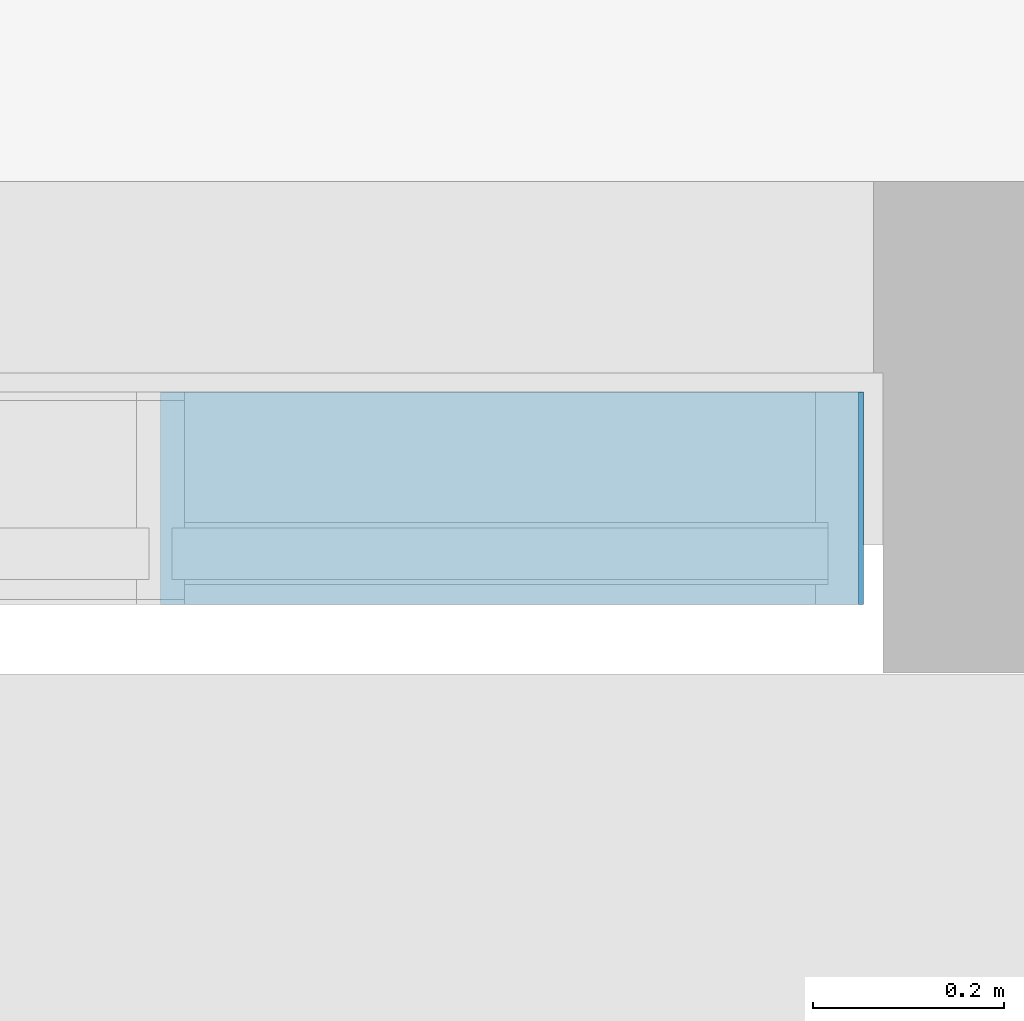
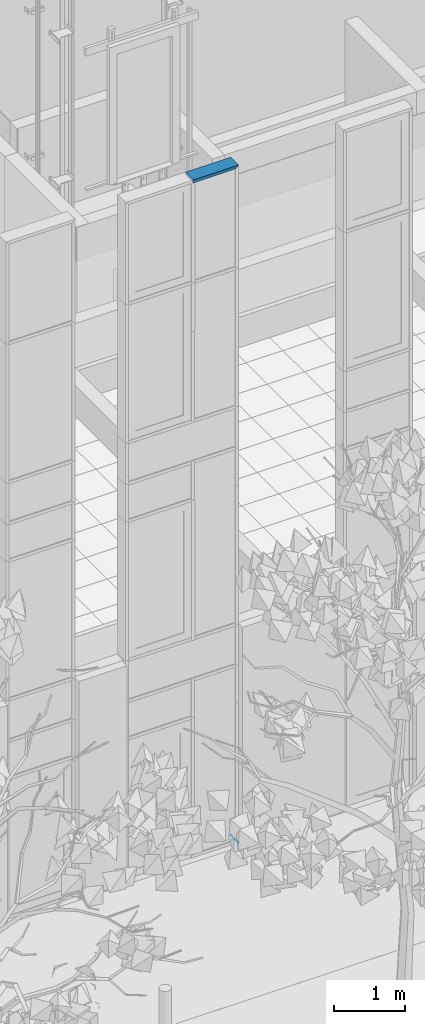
# One storey, part 31 of 246: 2 members, 1 element without a shape of its own.
"""IFC2X3 building model written with IfcOpenShell, lengths in millimetres."""

from ifc_helpers import new_model, entity, si_unit, converted_unit, derived_unit, money_unit, direction, frame, origin_with_axes, place, context, subcontext, project, spatial, faceted_brep, source, transform, mapped, material, type_object, element, aggregate, save


model = new_model("IFC2X3")

# Units and contexts
model_context = context("Model", 3, precision=0.01, world=origin_with_axes(), true_north=direction((0.0, 1.0)))
body_context = subcontext(model_context, "Body", "Model", "MODEL_VIEW")
ifc_project = project(units=[si_unit("LENGTHUNIT", "METRE", prefix="MILLI"), si_unit("AREAUNIT", "SQUARE_METRE"), si_unit("VOLUMEUNIT", "CUBIC_METRE"), converted_unit("PLANEANGLEUNIT", "DEGREE", entity("IfcPlaneAngleMeasure", 0.0174532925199), si_unit("PLANEANGLEUNIT", "RADIAN"), dimensions=[0, 0, 0, 0, 0, 0, 0]), si_unit("SOLIDANGLEUNIT", "STERADIAN"), money_unit("EUR"), converted_unit("TIMEUNIT", "Year", entity("IfcTimeMeasure", 31556926.0), si_unit("TIMEUNIT", "SECOND"), dimensions=[0, 0, 1, 0, 0, 0, 0]), si_unit("MASSUNIT", "GRAM", prefix="KILO"), si_unit("THERMODYNAMICTEMPERATUREUNIT", "DEGREE_CELSIUS"), si_unit("LUMINOUSINTENSITYUNIT", "LUMEN"), si_unit("ENERGYUNIT", "JOULE", prefix="MEGA"), derived_unit("THERMALCONDUCTANCEUNIT", [(si_unit("POWERUNIT", "WATT"), 1), (si_unit("LENGTHUNIT", "METRE"), -1), (si_unit("THERMODYNAMICTEMPERATUREUNIT", "KELVIN"), -1)]), derived_unit("SPECIFICHEATCAPACITYUNIT", [(si_unit("ENERGYUNIT", "JOULE"), 1), (si_unit("MASSUNIT", "GRAM", prefix="KILO"), -1), (si_unit("THERMODYNAMICTEMPERATUREUNIT", "KELVIN"), -1)]), derived_unit("MASSDENSITYUNIT", [(si_unit("MASSUNIT", "GRAM", prefix="KILO"), 1), (si_unit("VOLUMEUNIT", "CUBIC_METRE"), -1)])], contexts=[model_context])

# Site, building, storey
site_placement = place(None, origin_with_axes())
site = spatial("IfcSite", under=ifc_project, at=site_placement, Name="L.Koidula tn 11b", CompositionType="ELEMENT")
building_placement = place(site_placement, origin_with_axes())
building = spatial("IfcBuilding", under=site, at=building_placement, Name="Rakvere Riigigümnaasium", CompositionType="ELEMENT")
storey_placement = place(building_placement, origin_with_axes())
storey = spatial("IfcBuildingStorey", under=building, at=storey_placement, Name="1.korrus 0,00", CompositionType="ELEMENT", Elevation=0.0)

# Curtain wall, members
curtain_wall_type = type_object("IfcCurtainWallType", Name="Curtain Wall Type", PredefinedType="NOTDEFINED")
curtain_wall_placement = place(storey_placement, frame((42948.5002114, 5111.45334637, -8.09717250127e-06), z_axis=(0.0, 0.0, 1.0), x_axis=(1.0, 0.0, 0.0)))
curtain_wall = element("IfcCurtainWall", 1, at=curtain_wall_placement, inside=storey, type_object=curtain_wall_type, Name="KLF-05-2A")
ifc_material = material(Name="Alumiiniumprofiil (RAL 7021)")
member_type = type_object("IfcMemberType", Name="Boundary Frame 50 x 222", PredefinedType="MULLION")
shared_shape_1 = source(origin_with_axes(), body_context, "Body", "Brep", [
    faceted_brep([(5.00003729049, 53.0, 0.0), (0.0, 53.0, 0.0), (0.0, 53.0, 5.00003729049), (5.00003729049, -169.0, 0.0), (0.0, -169.0, 0.0), (0.0, -169.0, 5.00003729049)], [[[0, 1, 2]], [[3, 4, 1, 0]], [[1, 4, 5, 2]], [[0, 2, 5, 3]], [[4, 3, 5]]]),
])
member_1_placement = place(curtain_wall_placement, frame((871.000169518, 0.0, 0.0), z_axis=(1.0, 0.0, 0.0), x_axis=(0.0, 0.0, 1.0)))
member_1 = element("IfcMember", 2, at=member_1_placement, type_object=member_type, material=ifc_material, Name="KLF-05-1A-Profiilid", ObjectType="MULLION", context=body_context, shape_type="MappedRepresentation", body=[
    mapped(shared_shape_1, transform((0.0, 0.0, 0.0))),
])
shared_shape_2 = source(origin_with_axes(), body_context, "Body", "Brep", [
    faceted_brep([(37.0, -32.5, 735.000357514), (37.0, 32.5, 735.000357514), (50.0, 32.5, 735.000357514), (50.0, 53.0, 735.000357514), (0.0, 53.0, 735.000357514), (0.0, -169.0, 735.000357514), (50.0, -169.0, 735.000357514), (50.0, -32.5, 735.000357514), (37.0, -32.5, 37.0000020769), (37.0, 32.5, 37.0000020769), (50.0, 32.5, 50.0000028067), (50.0, 53.0, 50.0000028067), (0.0, 53.0, 0.0), (0.0, -169.0, 0.0), (50.0, -169.0, 50.0000028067), (50.0, -32.5, 50.0000028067)], [[[0, 1, 2, 3, 4, 5, 6, 7]], [[1, 0, 8, 9]], [[10, 2, 1, 9]], [[2, 10, 11, 3]], [[4, 3, 11, 12]], [[5, 4, 12, 13]], [[6, 5, 13, 14]], [[15, 7, 6, 14]], [[0, 7, 15, 8]], [[8, 15, 14, 13, 12, 11, 10, 9]]]),
])
member_2_placement = place(curtain_wall_placement, frame((876.00027016, 0.0, 11590.0000411), z_axis=(-1.0, 0.0, 0.0), x_axis=(0.0, 0.0, -1.0)))
member_2 = element("IfcMember", 3, at=member_2_placement, type_object=member_type, material=ifc_material, Name="KLF-05-0A-Profiilid", ObjectType="MULLION", context=body_context, shape_type="MappedRepresentation", body=[
    mapped(shared_shape_2, transform((0.0, 0.0, 0.0))),
])
aggregate(curtain_wall, [member_1, member_2])

save(model, "model.ifc")
